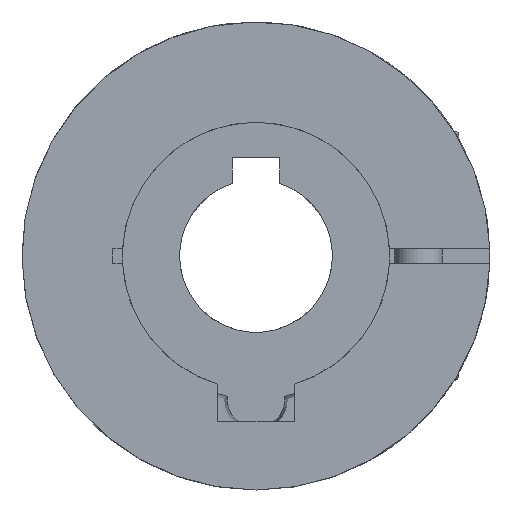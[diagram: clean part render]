
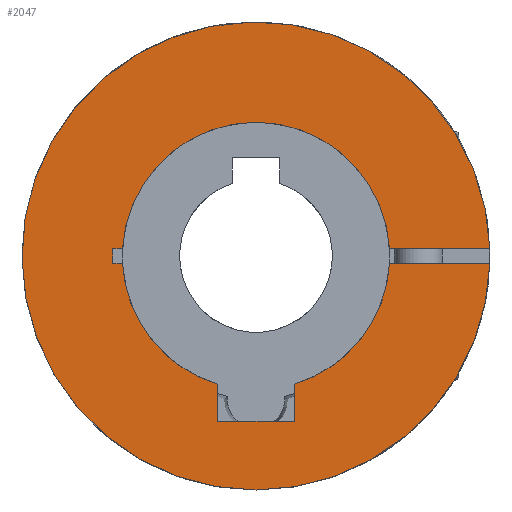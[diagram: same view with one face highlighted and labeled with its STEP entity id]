
A CAD part, left-side view. The second image highlights one B-rep face of the part: STEP entity #2047.
In plain terms, the highlighted planar face has unit normal (-1, 0, 0).
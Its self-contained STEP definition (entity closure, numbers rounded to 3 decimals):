
#36=PLANE('',#2319);
#196=LINE('',#3576,#314);
#199=LINE('',#3582,#317);
#200=LINE('',#3584,#318);
#204=LINE('',#3591,#322);
#207=LINE('',#3597,#325);
#211=LINE('',#3603,#329);
#212=LINE('',#3605,#330);
#213=LINE('',#3607,#331);
#314=VECTOR('',#2715,1.);
#317=VECTOR('',#2720,1.);
#318=VECTOR('',#2723,1.);
#322=VECTOR('',#2729,11.071);
#325=VECTOR('',#2736,11.071);
#329=VECTOR('',#2742,20.559);
#330=VECTOR('',#2745,20.559);
#331=VECTOR('',#2748,1.5);
#465=FACE_OUTER_BOUND('',#589,.T.);
#589=EDGE_LOOP('',(#1556,#1557,#1558,#1559,#1560,#1561,#1562,#1563,#1564,
#1565,#1566,#1567,#1568));
#771=CIRCLE('',#2297,24.5);
#773=CIRCLE('',#2299,24.5);
#777=CIRCLE('',#2304,14.);
#779=CIRCLE('',#2306,14.);
#780=CIRCLE('',#2308,14.);
#928=VERTEX_POINT('',#3528);
#929=VERTEX_POINT('',#3529);
#931=VERTEX_POINT('',#3534);
#938=VERTEX_POINT('',#3549);
#939=VERTEX_POINT('',#3551);
#942=VERTEX_POINT('',#3557);
#943=VERTEX_POINT('',#3559);
#944=VERTEX_POINT('',#3563);
#945=VERTEX_POINT('',#3564);
#949=VERTEX_POINT('',#3574);
#951=VERTEX_POINT('',#3580);
#953=VERTEX_POINT('',#3589);
#954=VERTEX_POINT('',#3596);
#1160=EDGE_CURVE('',#928,#929,#771,.T.);
#1163=EDGE_CURVE('',#929,#931,#773,.T.);
#1171=EDGE_CURVE('',#939,#938,#777,.T.);
#1175=EDGE_CURVE('',#943,#942,#779,.T.);
#1177=EDGE_CURVE('',#944,#945,#780,.T.);
#1183=EDGE_CURVE('',#942,#949,#196,.T.);
#1186=EDGE_CURVE('',#949,#951,#199,.T.);
#1187=EDGE_CURVE('',#951,#939,#200,.T.);
#1191=EDGE_CURVE('',#953,#938,#204,.T.);
#1194=EDGE_CURVE('',#954,#944,#207,.T.);
#1198=EDGE_CURVE('',#931,#945,#211,.T.);
#1199=EDGE_CURVE('',#928,#943,#212,.T.);
#1200=EDGE_CURVE('',#954,#953,#213,.T.);
#1556=ORIENTED_EDGE('',*,*,#1171,.T.);
#1557=ORIENTED_EDGE('',*,*,#1191,.F.);
#1558=ORIENTED_EDGE('',*,*,#1200,.F.);
#1559=ORIENTED_EDGE('',*,*,#1194,.T.);
#1560=ORIENTED_EDGE('',*,*,#1177,.T.);
#1561=ORIENTED_EDGE('',*,*,#1198,.F.);
#1562=ORIENTED_EDGE('',*,*,#1163,.F.);
#1563=ORIENTED_EDGE('',*,*,#1160,.F.);
#1564=ORIENTED_EDGE('',*,*,#1199,.T.);
#1565=ORIENTED_EDGE('',*,*,#1175,.T.);
#1566=ORIENTED_EDGE('',*,*,#1183,.T.);
#1567=ORIENTED_EDGE('',*,*,#1186,.T.);
#1568=ORIENTED_EDGE('',*,*,#1187,.T.);
#2047=ADVANCED_FACE('',(#465),#36,.T.);
#2297=AXIS2_PLACEMENT_3D('',#3530,#2675,#2676);
#2299=AXIS2_PLACEMENT_3D('',#3535,#2680,#2681);
#2304=AXIS2_PLACEMENT_3D('',#3552,#2694,#2695);
#2306=AXIS2_PLACEMENT_3D('',#3560,#2700,#2701);
#2308=AXIS2_PLACEMENT_3D('',#3565,#2705,#2706);
#2319=AXIS2_PLACEMENT_3D('',#3609,#2750,#2751);
#2675=DIRECTION('center_axis',(1.,0.,0.));
#2676=DIRECTION('ref_axis',(0.,0.,1.));
#2680=DIRECTION('center_axis',(1.,0.,0.));
#2681=DIRECTION('ref_axis',(0.,0.,1.));
#2694=DIRECTION('center_axis',(1.,0.,0.));
#2695=DIRECTION('ref_axis',(0.,0.,-1.));
#2700=DIRECTION('center_axis',(1.,0.,0.));
#2701=DIRECTION('ref_axis',(0.,0.,-1.));
#2705=DIRECTION('center_axis',(1.,0.,0.));
#2706=DIRECTION('ref_axis',(0.,0.,-1.));
#2715=DIRECTION('',(0.,0.,-1.));
#2720=DIRECTION('',(0.,1.,0.));
#2723=DIRECTION('',(0.,0.,1.));
#2729=DIRECTION('',(0.,-1.,0.));
#2736=DIRECTION('',(0.,-1.,0.));
#2742=DIRECTION('',(0.,1.,0.));
#2745=DIRECTION('',(0.,1.,0.));
#2748=DIRECTION('',(0.,0.,-1.));
#2750=DIRECTION('center_axis',(-1.,0.,0.));
#2751=DIRECTION('ref_axis',(0.,-1.,0.));
#3528=CARTESIAN_POINT('',(0.,-24.489,-0.75));
#3529=CARTESIAN_POINT('',(0.,0.,-24.5));
#3530=CARTESIAN_POINT('Origin',(0.,0.,
0.));
#3534=CARTESIAN_POINT('',(0.,-24.489,0.75));
#3535=CARTESIAN_POINT('Origin',(0.,0.,
0.));
#3549=CARTESIAN_POINT('',(0.,13.98,-0.75));
#3551=CARTESIAN_POINT('',(0.,4.,-13.416));
#3552=CARTESIAN_POINT('Origin',(0.,0.,0.));
#3557=CARTESIAN_POINT('',(0.,-4.,-13.416));
#3559=CARTESIAN_POINT('',(0.,-13.98,-0.75));
#3560=CARTESIAN_POINT('Origin',(0.,0.,0.));
#3563=CARTESIAN_POINT('',(0.,13.98,0.75));
#3564=CARTESIAN_POINT('',(0.,-13.98,0.75));
#3565=CARTESIAN_POINT('Origin',(0.,0.,0.));
#3574=CARTESIAN_POINT('',(0.,-4.,-17.3));
#3576=CARTESIAN_POINT('',(0.,-4.,-4.325));
#3580=CARTESIAN_POINT('',(0.,4.,-17.3));
#3582=CARTESIAN_POINT('',(0.,0.,-17.3));
#3584=CARTESIAN_POINT('',(0.,4.,-4.325));
#3589=CARTESIAN_POINT('',(0.,15.,-0.75));
#3591=CARTESIAN_POINT('',(0.,15.,-0.75));
#3596=CARTESIAN_POINT('',(0.,15.,0.75));
#3597=CARTESIAN_POINT('',(0.,15.,0.75));
#3603=CARTESIAN_POINT('',(0.,-24.489,0.75));
#3605=CARTESIAN_POINT('',(0.,-24.489,-0.75));
#3607=CARTESIAN_POINT('',(0.,15.,0.75));
#3609=CARTESIAN_POINT('Origin',(0.,0.,
0.));
